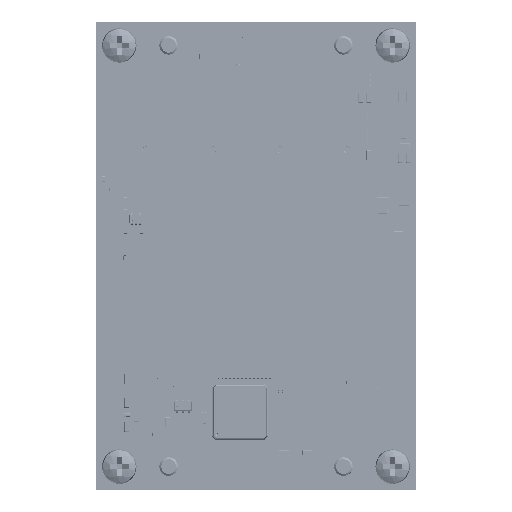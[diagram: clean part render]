
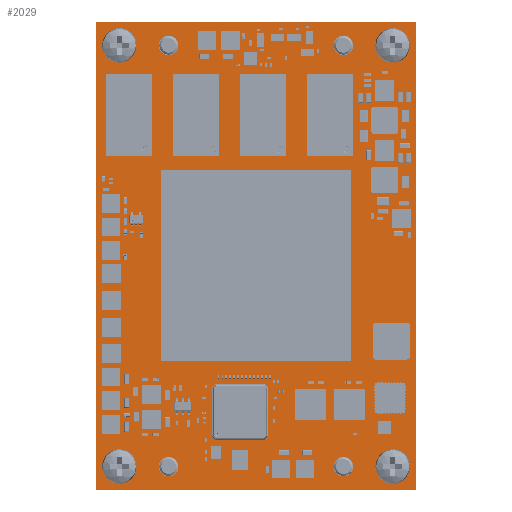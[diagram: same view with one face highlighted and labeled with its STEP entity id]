
A CAD part, top view. The second image highlights one B-rep face of the part: STEP entity #2029.
In plain terms, the highlighted planar face has unit normal (0, 0, 1).
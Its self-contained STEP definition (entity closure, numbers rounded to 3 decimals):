
#1612 = VERTEX_POINT('',#1613);
#1613 = CARTESIAN_POINT('',(0.,0.,1.752));
#1619 = EDGE_CURVE('',#1612,#1620,#1622,.T.);
#1620 = VERTEX_POINT('',#1621);
#1621 = CARTESIAN_POINT('',(52.,0.,1.752));
#1622 = LINE('',#1623,#1624);
#1623 = CARTESIAN_POINT('',(0.,0.,1.752));
#1624 = VECTOR('',#1625,1.);
#1625 = DIRECTION('',(1.,0.,0.));
#1650 = EDGE_CURVE('',#1620,#1651,#1653,.T.);
#1651 = VERTEX_POINT('',#1652);
#1652 = CARTESIAN_POINT('',(52.,76.,1.752));
#1653 = LINE('',#1654,#1655);
#1654 = CARTESIAN_POINT('',(52.,0.,1.752));
#1655 = VECTOR('',#1656,1.);
#1656 = DIRECTION('',(0.,1.,0.));
#1681 = EDGE_CURVE('',#1651,#1682,#1684,.T.);
#1682 = VERTEX_POINT('',#1683);
#1683 = CARTESIAN_POINT('',(0.,76.,1.752));
#1684 = LINE('',#1685,#1686);
#1685 = CARTESIAN_POINT('',(52.,76.,1.752));
#1686 = VECTOR('',#1687,1.);
#1687 = DIRECTION('',(-1.,0.,0.));
#1712 = EDGE_CURVE('',#1682,#1612,#1713,.T.);
#1713 = LINE('',#1714,#1715);
#1714 = CARTESIAN_POINT('',(0.,76.,1.752));
#1715 = VECTOR('',#1716,1.);
#1716 = DIRECTION('',(0.,-1.,0.));
#1736 = VERTEX_POINT('',#1737);
#1737 = CARTESIAN_POINT('',(5.4,3.8,1.752));
#1743 = EDGE_CURVE('',#1736,#1736,#1744,.T.);
#1744 = CIRCLE('',#1745,1.6);
#1745 = AXIS2_PLACEMENT_3D('',#1746,#1747,#1748);
#1746 = CARTESIAN_POINT('',(3.8,3.8,1.752));
#1747 = DIRECTION('',(0.,0.,1.));
#1748 = DIRECTION('',(1.,0.,-0.));
#1769 = VERTEX_POINT('',#1770);
#1770 = CARTESIAN_POINT('',(13.4,3.8,1.752));
#1776 = EDGE_CURVE('',#1769,#1769,#1777,.T.);
#1777 = CIRCLE('',#1778,1.6);
#1778 = AXIS2_PLACEMENT_3D('',#1779,#1780,#1781);
#1779 = CARTESIAN_POINT('',(11.8,3.8,1.752));
#1780 = DIRECTION('',(0.,0.,1.));
#1781 = DIRECTION('',(1.,0.,-0.));
#1802 = VERTEX_POINT('',#1803);
#1803 = CARTESIAN_POINT('',(5.4,72.2,1.752));
#1809 = EDGE_CURVE('',#1802,#1802,#1810,.T.);
#1810 = CIRCLE('',#1811,1.6);
#1811 = AXIS2_PLACEMENT_3D('',#1812,#1813,#1814);
#1812 = CARTESIAN_POINT('',(3.8,72.2,1.752));
#1813 = DIRECTION('',(0.,0.,1.));
#1814 = DIRECTION('',(1.,0.,-0.));
#1835 = VERTEX_POINT('',#1836);
#1836 = CARTESIAN_POINT('',(13.4,72.2,1.752));
#1842 = EDGE_CURVE('',#1835,#1835,#1843,.T.);
#1843 = CIRCLE('',#1844,1.6);
#1844 = AXIS2_PLACEMENT_3D('',#1845,#1846,#1847);
#1845 = CARTESIAN_POINT('',(11.8,72.2,1.752));
#1846 = DIRECTION('',(0.,0.,1.));
#1847 = DIRECTION('',(1.,0.,-0.));
#1868 = VERTEX_POINT('',#1869);
#1869 = CARTESIAN_POINT('',(41.8,3.8,1.752));
#1875 = EDGE_CURVE('',#1868,#1868,#1876,.T.);
#1876 = CIRCLE('',#1877,1.6);
#1877 = AXIS2_PLACEMENT_3D('',#1878,#1879,#1880);
#1878 = CARTESIAN_POINT('',(40.2,3.8,1.752));
#1879 = DIRECTION('',(0.,0.,1.));
#1880 = DIRECTION('',(1.,0.,-0.));
#1901 = VERTEX_POINT('',#1902);
#1902 = CARTESIAN_POINT('',(49.8,3.8,1.752));
#1908 = EDGE_CURVE('',#1901,#1901,#1909,.T.);
#1909 = CIRCLE('',#1910,1.6);
#1910 = AXIS2_PLACEMENT_3D('',#1911,#1912,#1913);
#1911 = CARTESIAN_POINT('',(48.2,3.8,1.752));
#1912 = DIRECTION('',(0.,0.,1.));
#1913 = DIRECTION('',(1.,0.,-0.));
#1934 = VERTEX_POINT('',#1935);
#1935 = CARTESIAN_POINT('',(41.8,72.2,1.752));
#1941 = EDGE_CURVE('',#1934,#1934,#1942,.T.);
#1942 = CIRCLE('',#1943,1.6);
#1943 = AXIS2_PLACEMENT_3D('',#1944,#1945,#1946);
#1944 = CARTESIAN_POINT('',(40.2,72.2,1.752));
#1945 = DIRECTION('',(0.,0.,1.));
#1946 = DIRECTION('',(1.,0.,-0.));
#1967 = VERTEX_POINT('',#1968);
#1968 = CARTESIAN_POINT('',(49.8,72.2,1.752));
#1974 = EDGE_CURVE('',#1967,#1967,#1975,.T.);
#1975 = CIRCLE('',#1976,1.6);
#1976 = AXIS2_PLACEMENT_3D('',#1977,#1978,#1979);
#1977 = CARTESIAN_POINT('',(48.2,72.2,1.752));
#1978 = DIRECTION('',(0.,0.,1.));
#1979 = DIRECTION('',(1.,0.,-0.));
#2029 = ADVANCED_FACE('',(#2030,#2036,#2039,#2042,#2045,#2048,#2051,
    #2054,#2057),#2060,.T.);
#2030 = FACE_BOUND('',#2031,.T.);
#2031 = EDGE_LOOP('',(#2032,#2033,#2034,#2035));
#2032 = ORIENTED_EDGE('',*,*,#1619,.T.);
#2033 = ORIENTED_EDGE('',*,*,#1650,.T.);
#2034 = ORIENTED_EDGE('',*,*,#1681,.T.);
#2035 = ORIENTED_EDGE('',*,*,#1712,.T.);
#2036 = FACE_BOUND('',#2037,.T.);
#2037 = EDGE_LOOP('',(#2038));
#2038 = ORIENTED_EDGE('',*,*,#1743,.F.);
#2039 = FACE_BOUND('',#2040,.T.);
#2040 = EDGE_LOOP('',(#2041));
#2041 = ORIENTED_EDGE('',*,*,#1776,.F.);
#2042 = FACE_BOUND('',#2043,.T.);
#2043 = EDGE_LOOP('',(#2044));
#2044 = ORIENTED_EDGE('',*,*,#1809,.F.);
#2045 = FACE_BOUND('',#2046,.T.);
#2046 = EDGE_LOOP('',(#2047));
#2047 = ORIENTED_EDGE('',*,*,#1842,.F.);
#2048 = FACE_BOUND('',#2049,.T.);
#2049 = EDGE_LOOP('',(#2050));
#2050 = ORIENTED_EDGE('',*,*,#1875,.F.);
#2051 = FACE_BOUND('',#2052,.T.);
#2052 = EDGE_LOOP('',(#2053));
#2053 = ORIENTED_EDGE('',*,*,#1908,.F.);
#2054 = FACE_BOUND('',#2055,.T.);
#2055 = EDGE_LOOP('',(#2056));
#2056 = ORIENTED_EDGE('',*,*,#1941,.F.);
#2057 = FACE_BOUND('',#2058,.T.);
#2058 = EDGE_LOOP('',(#2059));
#2059 = ORIENTED_EDGE('',*,*,#1974,.F.);
#2060 = PLANE('',#2061);
#2061 = AXIS2_PLACEMENT_3D('',#2062,#2063,#2064);
#2062 = CARTESIAN_POINT('',(26.,38.,1.752));
#2063 = DIRECTION('',(0.,0.,1.));
#2064 = DIRECTION('',(1.,0.,-0.));
